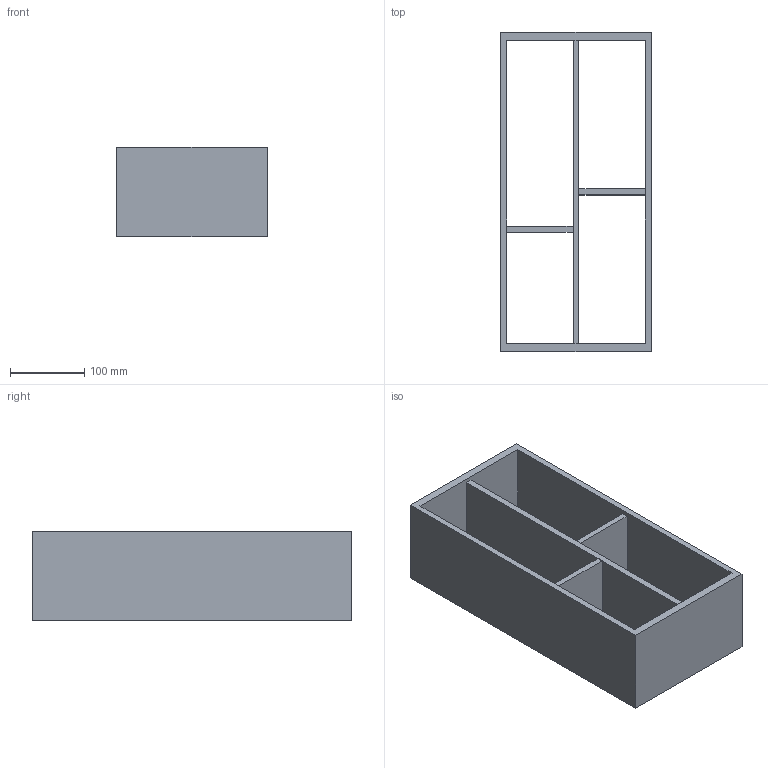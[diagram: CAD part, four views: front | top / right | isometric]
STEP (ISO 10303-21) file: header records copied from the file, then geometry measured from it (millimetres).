
FILE_DESCRIPTION (( 'STEP AP214' ), '1' );
FILE_NAME ('Vario Multi H120 NL450_B300_19 mm_Alu-Buche.step', '2010-10-08T09:47:23', ( 'grass' ), ( '' ), 'SwSTEP 2.0', 'SolidWorks 2010', '' );
FILE_SCHEMA (( 'AUTOMOTIVE_DESIGN' ));
Length unit declared in the file: millimetre
Products named in the file (1): Vario Multi H120 NL450_B300_19 mm_Alu-Buche
Bounding box: 202 x 429 x 120 mm (x, y, z)
Volume: 1848164.7 mm3; surface area: 452922.3 mm2
Topology: 1 solids, 1 shells, 22 faces, 60 edges, 40 vertices
Faces by surface type: plane 22
Entity records: 734 total; most frequent: CARTESIAN_POINT 123, ORIENTED_EDGE 120, DIRECTION 106, EDGE_CURVE 60, LINE 60, VECTOR 60, VERTEX_POINT 40, EDGE_LOOP 30
